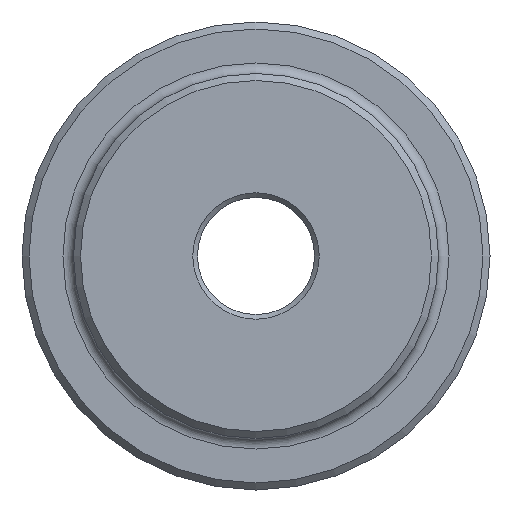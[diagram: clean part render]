
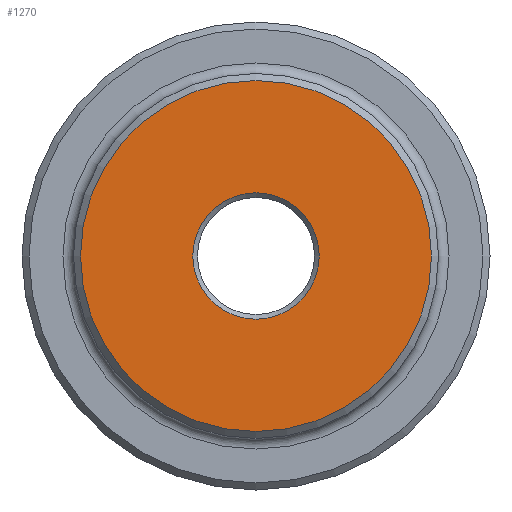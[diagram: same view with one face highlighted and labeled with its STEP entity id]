
A CAD part, left-side view. The second image highlights one B-rep face of the part: STEP entity #1270.
In plain terms, the highlighted planar face has unit normal (-1, 0, 0).
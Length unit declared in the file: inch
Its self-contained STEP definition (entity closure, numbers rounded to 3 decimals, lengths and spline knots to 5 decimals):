
#61 = CARTESIAN_POINT ( 'NONE',  ( 0., 0., -1.5 ) ) ;
#131 = FACE_OUTER_BOUND ( 'NONE', #1514, .T. ) ;
#195 = EDGE_CURVE ( 'NONE', #440, #440, #580, .T. ) ;
#286 = DIRECTION ( 'NONE',  ( 0., 0., -1. ) ) ;
#338 = EDGE_LOOP ( 'NONE', ( #1433 ) ) ;
#347 = AXIS2_PLACEMENT_3D ( 'NONE', #607, #1638, #286 ) ;
#394 = ORIENTED_EDGE ( 'NONE', *, *, #195, .T. ) ;
#408 = DIRECTION ( 'NONE',  ( 1., 0., 0. ) ) ;
#440 = VERTEX_POINT ( 'NONE', #61 ) ;
#484 = DIRECTION ( 'NONE',  ( -1., 0., 0. ) ) ;
#560 = CIRCLE ( 'NONE', #347, 0.54015 ) ;
#580 = CIRCLE ( 'NONE', #1670, 1.5 ) ;
#607 = CARTESIAN_POINT ( 'NONE',  ( 0., 0., 0. ) ) ;
#611 = CARTESIAN_POINT ( 'NONE',  ( 0., 0., 0. ) ) ;
#713 = DIRECTION ( 'NONE',  ( 0., 0., -1. ) ) ;
#770 = FACE_BOUND ( 'NONE', #338, .T. ) ;
#795 = VERTEX_POINT ( 'NONE', #1518 ) ;
#987 = CARTESIAN_POINT ( 'NONE',  ( 0., 0., 0. ) ) ;
#1205 = PLANE ( 'NONE',  #1819 ) ;
#1270 = ADVANCED_FACE ( 'NONE', ( #770, #131 ), #1205, .F. ) ;
#1433 = ORIENTED_EDGE ( 'NONE', *, *, #1834, .T. ) ;
#1514 = EDGE_LOOP ( 'NONE', ( #394 ) ) ;
#1518 = CARTESIAN_POINT ( 'NONE',  ( 0., 0., -0.54015 ) ) ;
#1550 = DIRECTION ( 'NONE',  ( 0., 0., -1. ) ) ;
#1638 = DIRECTION ( 'NONE',  ( 1., 0., 0. ) ) ;
#1670 = AXIS2_PLACEMENT_3D ( 'NONE', #987, #484, #713 ) ;
#1819 = AXIS2_PLACEMENT_3D ( 'NONE', #611, #408, #1550 ) ;
#1834 = EDGE_CURVE ( 'NONE', #795, #795, #560, .T. ) ;
